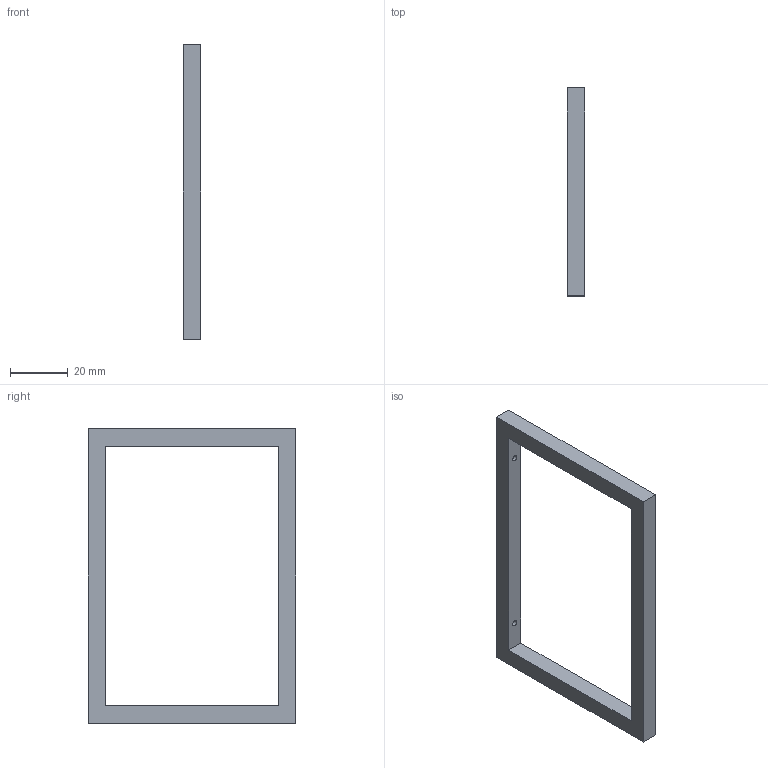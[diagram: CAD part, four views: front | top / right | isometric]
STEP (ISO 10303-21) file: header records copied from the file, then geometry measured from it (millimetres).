
FILE_DESCRIPTION(/* description */ (''),/* implementation_level */ '2;1');
FILE_NAME(/* name */ '',/* time_stamp */ '2026-04-10T14:32:13+02:00',/* author */ (''),/* organization */ (''),/* preprocessor_version */ 'ST-DEVELOPER v20.1',/* originating_system */ 'Autodesk Translation Framework v14.24.0.0',/* authorisation */ '');
FILE_SCHEMA (('AUTOMOTIVE_DESIGN { 1 0 10303 214 3 1 1 }'));
Length unit declared in the file: millimetre
Products named in the file (1): (Niezapisany)
Bounding box: 6 x 72 x 102 mm (x, y, z)
Volume: 11626.3 mm3; surface area: 7838.8 mm2
Topology: 1 solids, 1 shells, 12 faces, 30 edges, 20 vertices
Faces by surface type: plane 10, cylinder 2
Full cylindrical faces by diameter (mm): 2 x2
Entity records: 403 total; most frequent: CARTESIAN_POINT 63, ORIENTED_EDGE 60, DIRECTION 60, EDGE_CURVE 30, LINE 26, VECTOR 26, VERTEX_POINT 20, EDGE_LOOP 18
